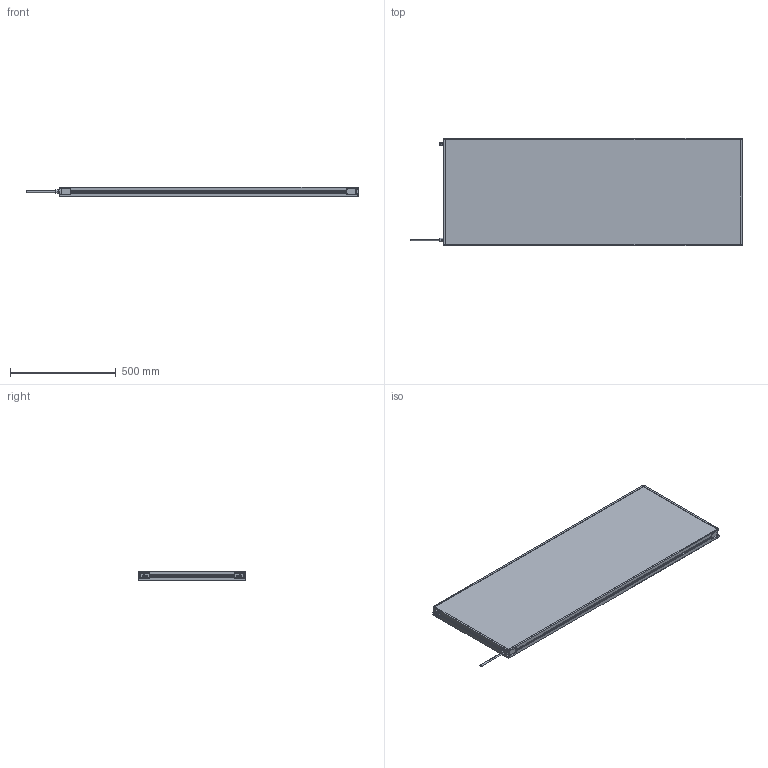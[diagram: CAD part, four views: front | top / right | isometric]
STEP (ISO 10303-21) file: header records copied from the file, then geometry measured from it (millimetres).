
FILE_DESCRIPTION (( 'STEP AP214' ), '1' );
FILE_NAME ('MBACK-xxxx-xxx-M1A2_CLIENT500x1400.STEP', '2022-04-01T11:41:11', ( '' ), ( '' ), 'SwSTEP 2.0', 'SolidWorks 2020', '' );
FILE_SCHEMA (( 'AUTOMOTIVE_DESIGN' ));
Length unit declared in the file: millimetre
Products named in the file (1): MBACK-xxxx-xxx-M1A2_CLIENT500x1400
Bounding box: 1567.4 x 508 x 45.5 mm (x, y, z)
Volume: 29796333.2 mm3; surface area: 1691027.5 mm2
Topology: 1 solids, 1 shells, 470 faces, 1210 edges, 804 vertices
Faces by surface type: plane 265, cylinder 117, bspline 80, cone 8
Entity records: 18046 total; most frequent: CARTESIAN_POINT 6837, ORIENTED_EDGE 2420, DIRECTION 2082, EDGE_CURVE 1210, VERTEX_POINT 804, LINE 800, VECTOR 800, AXIS2_PLACEMENT_3D 641
